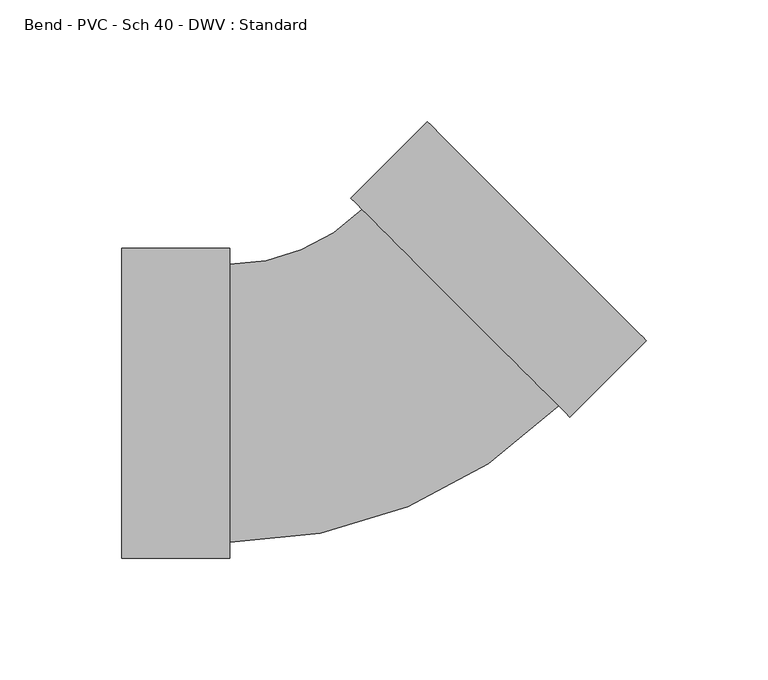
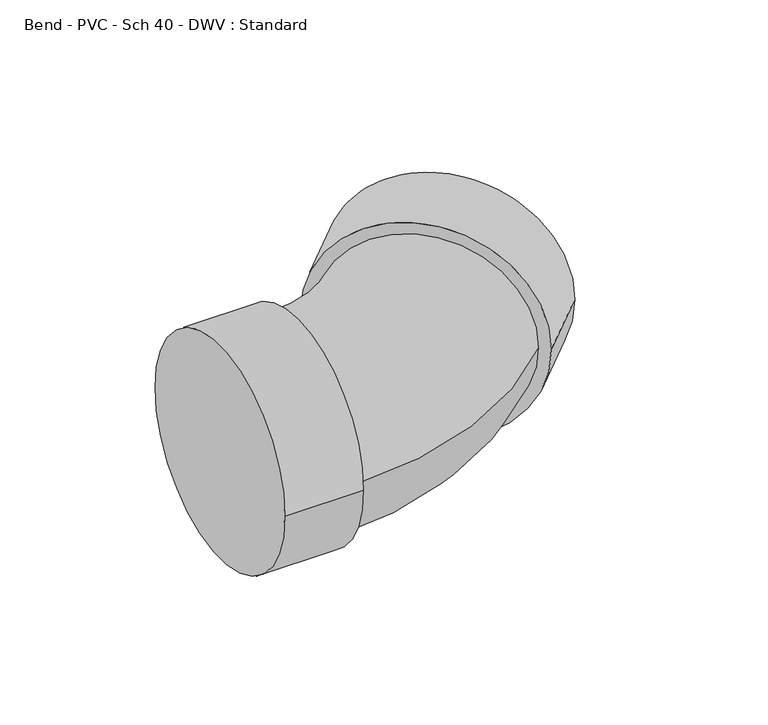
"""IFC4 building model written with IfcOpenShell, lengths in millimetres: pipe fitting geometry, Bend - PVC - Sch 40 - DWV : Standard."""

from ifc_helpers import new_model, si_unit, point, frame, origin, place, context, project, spatial, circle_curve, ellipse_curve, trimmed, source, transform, mapped, element, save
from ifc_brep_helpers import plane_surface, cylinder_surface, revolved_surface, advanced_brep


def bend_pvc_sch_40_dwv_standard_1fbead0f(model_context):
    return source(origin(), model_context, "Body", "AdvancedBrep", [
        advanced_brep(
        [(-100.0252, -63.754, 0.0), (-100.0252, 63.754, 0.0), (-55.5752, -63.754, 0.0), (-55.5752, 63.754, 0.0), (-55.5752, -57.15, 0.0), (-55.5752, 57.15, 0.0), (-1.1099851, 79.7088031, 0.0), (79.7087034, -1.1171184, 0.0), (84.3782276, -5.7870605, 0.0), (-5.7795093, 84.3787452, 0.0), (115.8105305, 25.6424294, 0.0), (25.6527935, 115.8082352, 0.0)],
        [
            (0, 1, circle_curve(frame((-100.0252, 0.0, 0.0), z_axis=(-1.0, 0.0, 0.0), x_axis=(0.0, 1.0, 0.0)), 63.754)),
            (1, 0, circle_curve(frame((-100.0252, 0.0, 0.0), z_axis=(-1.0, 0.0, 0.0), x_axis=(0.0, 1.0, 0.0)), 63.754)),
            (2, 3, circle_curve(frame((-55.5752, 0.0, 0.0), z_axis=(1.0, 0.0, 0.0), x_axis=(0.0, 1.0, 0.0)), 63.754)),
            (3, 2, circle_curve(frame((-55.5752, 0.0, 0.0), z_axis=(1.0, 0.0, 0.0), x_axis=(0.0, 1.0, 0.0)), 63.754)),
            (4, 5, circle_curve(frame((-55.5752, 0.0, 0.0), z_axis=(-1.0, 0.0, 0.0), x_axis=(0.0, 1.0, 0.0)), 57.15)),
            (5, 4, circle_curve(frame((-55.5752, 0.0, 0.0), z_axis=(-1.0, 0.0, 0.0), x_axis=(0.0, 1.0, 0.0)), 57.15)),
            (0, 2),
            (3, 1),
            (6, 5, circle_curve(frame((-55.5752, 134.1788924, 0.0), z_axis=(0.0, 0.0, -1.0), x_axis=(0.0, -1.0, 0.0)), 77.0288924)),
            (4, 7, circle_curve(frame((-55.5752, 134.1788924, 0.0), z_axis=(0.0, 0.0, 1.0), x_axis=(0.0, -1.0, 0.0)), 191.3288924)),
            (7, 6, circle_curve(frame((39.2993592, 39.2958423, 0.0), z_axis=(-0.7071384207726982, -0.707075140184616, 0.0), x_axis=(-0.707075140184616, 0.7071384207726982, 0.0)), 57.15)),
            (6, 7, circle_curve(frame((39.2993592, 39.2958423, 0.0), z_axis=(-0.7071384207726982, -0.707075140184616, 0.0), x_axis=(-0.707075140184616, 0.7071384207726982, 0.0)), 57.15)),
            (8, 9, circle_curve(frame((39.2993592, 39.2958423, 0.0), z_axis=(-0.7071384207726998, -0.7070751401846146, 0.0), x_axis=(-0.7070751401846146, 0.7071384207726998, 0.0)), 63.754)),
            (9, 8, circle_curve(frame((39.2993592, 39.2958423, 0.0), z_axis=(-0.7071384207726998, -0.7070751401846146, 0.0), x_axis=(-0.7070751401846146, 0.7071384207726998, 0.0)), 63.754)),
            (10, 11, circle_curve(frame((70.731662, 70.7253323, 0.0), z_axis=(0.7071384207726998, 0.7070751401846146, 0.0), x_axis=(-0.7070751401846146, 0.7071384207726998, 0.0)), 63.754)),
            (11, 10, circle_curve(frame((70.731662, 70.7253323, 0.0), z_axis=(0.7071384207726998, 0.7070751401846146, 0.0), x_axis=(-0.7070751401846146, 0.7071384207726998, 0.0)), 63.754)),
            (8, 10),
            (11, 9),
        ],
        [
            plane_surface(frame((-100.0252, 0.0, 0.0), z_axis=(-1.0, 0.0, 0.0), x_axis=(0.0, 0.0, 1.0))),
            plane_surface(frame((-55.5752, 0.0, 0.0), z_axis=(1.0, 0.0, 0.0), x_axis=(0.0, 0.0, 1.0))),
            cylinder_surface(frame((-100.0252, 0.0, 0.0), z_axis=(-1.0, 0.0, 0.0), x_axis=(0.0, 1.0, 0.0)), 63.754),
            revolved_surface(trimmed(ellipse_curve(frame((-55.5752, 0.0, 0.0), z_axis=(-1.0, 0.0, 0.0), x_axis=(0.0, 1.0, 0.0)), 57.15, 57.15), [point((-55.5752, -57.15, 0.0))], [point((-55.5752, 57.15, 0.0))], True, "CARTESIAN"), (-55.5752, 134.1788924, 0.0), (0.0, 0.0, 1.0)),
            revolved_surface(trimmed(ellipse_curve(frame((-55.5752, 0.0, 0.0), z_axis=(-1.0, 0.0, 0.0), x_axis=(0.0, 1.0, 0.0)), 57.15, 57.15), [point((-55.5752, 57.15, 0.0))], [point((-55.5752, -57.15, 0.0))], True, "CARTESIAN"), (-55.5752, 134.1788924, 0.0), (0.0, 0.0, 1.0)),
            plane_surface(frame((39.2993592, 39.2958423, 0.0), z_axis=(-0.7071384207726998, -0.7070751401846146, 0.0), x_axis=(0.0, 0.0, 1.0))),
            plane_surface(frame((70.731662, 70.7253323, 0.0), z_axis=(0.7071384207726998, 0.7070751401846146, 0.0), x_axis=(0.0, 0.0, 1.0))),
            cylinder_surface(frame((39.2993592, 39.2958423, 0.0), z_axis=(-0.7071384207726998, -0.7070751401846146, 0.0), x_axis=(-0.7070751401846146, 0.7071384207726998, 0.0)), 63.754),
        ],
        [
            (0, [[1, 2]]),
            (1, [[3, 4], [5, 6]]),
            (2, [[-1, 7, -4, 8]]),
            (2, [[-2, -8, -3, -7]]),
            (3, [[9, -5, 10, 11]]),
            (4, [[-9, 12, -10, -6]]),
            (5, [[13, 14], [-11, -12]]),
            (6, [[15, 16]]),
            (7, [[-13, 17, -16, 18]]),
            (7, [[-14, -18, -15, -17]]),
        ],
    ),
    ])


if __name__ == "__main__":
    model = new_model("IFC4")
    model_context = context("Model", 3, world=origin())
    ifc_project = project(units=[si_unit("LENGTHUNIT", "METRE", prefix="MILLI")], contexts=[model_context])
    site = spatial("IfcSite", under=ifc_project)
    building = spatial("IfcBuilding", under=site)
    placement = place(None, origin())
    bend_pvc_sch_40_dwv_standard_shape = bend_pvc_sch_40_dwv_standard_1fbead0f(model_context)
    element("IfcPipeFitting", 1, ObjectType="Bend - PVC - Sch 40 - DWV : Standard", at=placement, inside=building, context=model_context, shape_type="MappedRepresentation", body=[
        mapped(bend_pvc_sch_40_dwv_standard_shape, transform((0.0, 0.0, 0.0), x_axis=(1.0, 0.0, 0.0), y_axis=(0.0, 1.0, 0.0), z_axis=(0.0, 0.0, 1.0))),
    ])
    save(model, "model.ifc")
